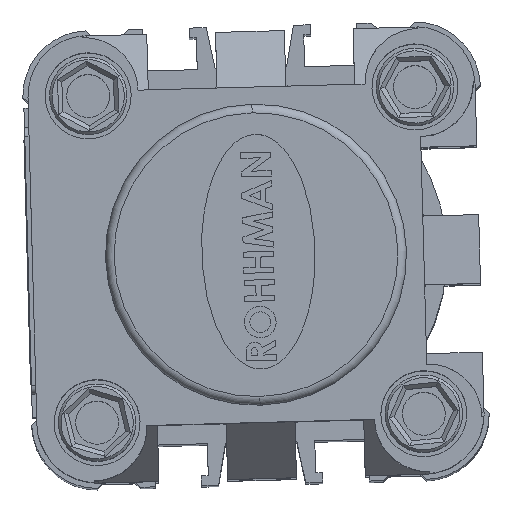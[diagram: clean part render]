
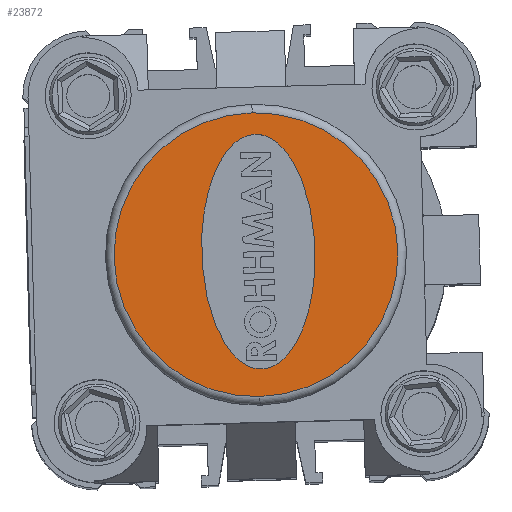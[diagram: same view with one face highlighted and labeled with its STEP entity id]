
A CAD part, top view. The second image highlights one B-rep face of the part: STEP entity #23872.
In plain terms, the highlighted planar face has unit normal (0, 0, 1) as drawn and (0, 0, -1) by its records, which use the part's own axes.
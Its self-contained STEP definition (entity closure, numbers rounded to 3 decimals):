
#1751 = EDGE_CURVE ( 'NONE', #9284, #19011, #4022, .T. ) ;
#1862 = CARTESIAN_POINT ( 'NONE',  ( 12.017, 38.913, -4. ) ) ;
#2028 = CARTESIAN_POINT ( 'NONE',  ( 12.017, 25.719, -4. ) ) ;
#3495 = AXIS2_PLACEMENT_3D ( 'NONE', #24804, #9537, #9369 ) ;
#4022 = CIRCLE ( 'NONE', #3495, 16.5 ) ;
#4462 = CARTESIAN_POINT ( 'NONE',  ( 9.5, 26., -4. ) ) ;
#4607 =( BOUNDED_CURVE ( )  B_SPLINE_CURVE ( 3, ( #10583, #18205, #4949, #28352 ),
 .UNSPECIFIED., .F., .F. ) 
 B_SPLINE_CURVE_WITH_KNOTS ( ( 4, 4 ),
 ( 0., 3.142 ),
 .UNSPECIFIED. ) 
 CURVE ( )  GEOMETRIC_REPRESENTATION_ITEM ( )  RATIONAL_B_SPLINE_CURVE ( ( 1., 0.333, 0.333, 1. ) ) 
 REPRESENTATION_ITEM ( '' )  );
#4949 = CARTESIAN_POINT ( 'NONE',  ( 12.017, 12.525, -4. ) ) ;
#5113 = CIRCLE ( 'NONE', #14116, 16.5 ) ;
#6545 = ORIENTED_EDGE ( 'NONE', *, *, #1751, .T. ) ;
#7066 = DIRECTION ( 'NONE',  ( -1., 0., 0. ) ) ;
#8084 = VERTEX_POINT ( 'NONE', #20944 ) ;
#9284 = VERTEX_POINT ( 'NONE', #4462 ) ;
#9369 = DIRECTION ( 'NONE',  ( -1., 0., 0. ) ) ;
#9475 = EDGE_LOOP ( 'NONE', ( #16334, #11297 ) ) ;
#9537 = DIRECTION ( 'NONE',  ( 0., 0., -1. ) ) ;
#9727 = EDGE_CURVE ( 'NONE', #19011, #9284, #5113, .T. ) ;
#10583 = CARTESIAN_POINT ( 'NONE',  ( 39.297, 25.719, -4. ) ) ;
#11297 = ORIENTED_EDGE ( 'NONE', *, *, #21435, .F. ) ;
#11772 = EDGE_CURVE ( 'NONE', #8084, #32406, #4607, .T. ) ;
#12389 = DIRECTION ( 'NONE',  ( -1., 0., 0. ) ) ;
#13496 = EDGE_LOOP ( 'NONE', ( #6545, #18033 ) ) ;
#14116 = AXIS2_PLACEMENT_3D ( 'NONE', #32469, #17004, #7066 ) ;
#14446 = CARTESIAN_POINT ( 'NONE',  ( 39.297, 25.719, -4. ) ) ;
#16334 = ORIENTED_EDGE ( 'NONE', *, *, #11772, .F. ) ;
#17004 = DIRECTION ( 'NONE',  ( 0., 0., -1. ) ) ;
#17360 = FACE_OUTER_BOUND ( 'NONE', #13496, .T. ) ;
#18033 = ORIENTED_EDGE ( 'NONE', *, *, #9727, .T. ) ;
#18205 = CARTESIAN_POINT ( 'NONE',  ( 39.297, 12.525, -4. ) ) ;
#19011 = VERTEX_POINT ( 'NONE', #31173 ) ;
#20023 = FACE_BOUND ( 'NONE', #9475, .T. ) ;
#20188 = CARTESIAN_POINT ( 'NONE',  ( 26., 26., -4. ) ) ;
#20944 = CARTESIAN_POINT ( 'NONE',  ( 39.297, 25.719, -4. ) ) ;
#21435 = EDGE_CURVE ( 'NONE', #32406, #8084, #24304, .T. ) ;
#22855 = PLANE ( 'NONE',  #23841 ) ;
#23008 = DIRECTION ( 'NONE',  ( 0., 0., -1. ) ) ;
#23841 = AXIS2_PLACEMENT_3D ( 'NONE', #20188, #23008, #12389 ) ;
#23872 = ADVANCED_FACE ( 'NONE', ( #20023, #17360 ), #22855, .T. ) ;
#24304 =( BOUNDED_CURVE ( )  B_SPLINE_CURVE ( 3, ( #25095, #1862, #24776, #14446 ),
 .UNSPECIFIED., .F., .F. ) 
 B_SPLINE_CURVE_WITH_KNOTS ( ( 4, 4 ),
 ( 3.142, 6.283 ),
 .UNSPECIFIED. ) 
 CURVE ( )  GEOMETRIC_REPRESENTATION_ITEM ( )  RATIONAL_B_SPLINE_CURVE ( ( 1., 0.333, 0.333, 1. ) ) 
 REPRESENTATION_ITEM ( '' )  );
#24776 = CARTESIAN_POINT ( 'NONE',  ( 39.297, 38.913, -4. ) ) ;
#24804 = CARTESIAN_POINT ( 'NONE',  ( 26., 26., -4. ) ) ;
#25095 = CARTESIAN_POINT ( 'NONE',  ( 12.017, 25.719, -4. ) ) ;
#28352 = CARTESIAN_POINT ( 'NONE',  ( 12.017, 25.719, -4. ) ) ;
#31173 = CARTESIAN_POINT ( 'NONE',  ( 42.5, 26., -4. ) ) ;
#32406 = VERTEX_POINT ( 'NONE', #2028 ) ;
#32469 = CARTESIAN_POINT ( 'NONE',  ( 26., 26., -4. ) ) ;
